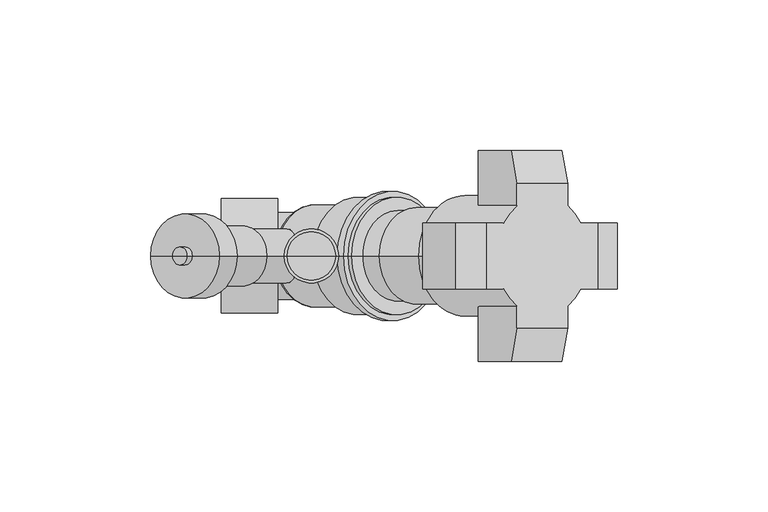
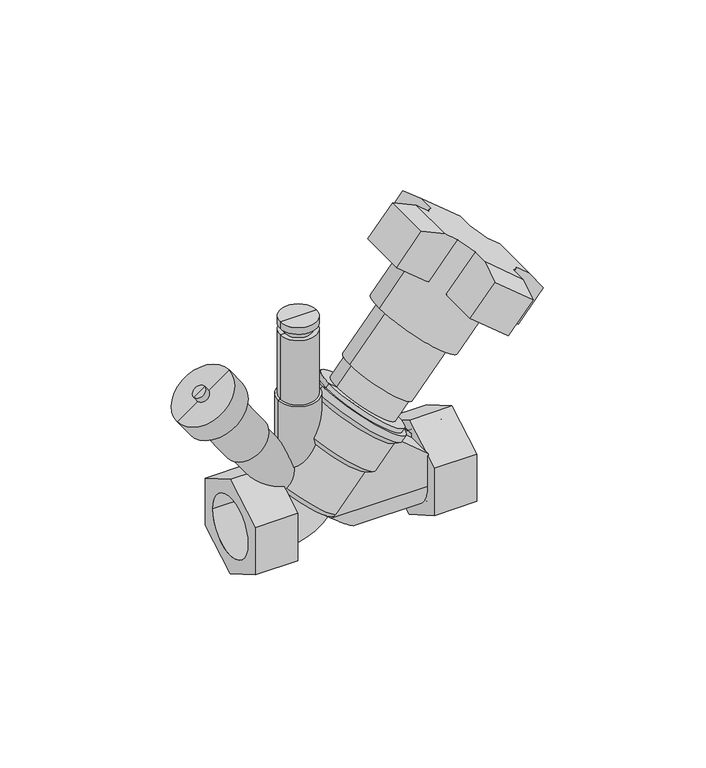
"""IFC4 building model written with IfcOpenShell, lengths in millimetres: valve geometry, 400_56_KOMF_VTR DN20-50 : DN 20, meet & vul/aftap."""

from ifc_helpers import new_model, si_unit, point, frame, origin, origin_2d, place, context, project, spatial, polyline, circle_curve, ellipse_curve, trimmed, segment, composite_curve, outline, extrude, source, transform, mapped, element, save
from ifc_brep_helpers import plane_surface, cylinder_surface, revolved_surface, advanced_brep


def valve_7e726bc3(model_context):
    return source(origin(), model_context, "Body", "SolidModel", [
        advanced_brep(
        [(-29.95, -19.0, 10.9696551), (-29.95, -19.0, -10.9696551), (-29.95, 0.0, -21.9393102), (-29.95, 19.0, -10.9696551), (-29.95, 19.0, 10.9696551), (-29.95, 0.0, 21.9393102), (-48.75, -19.0, 10.9696551), (-48.75, 0.0, 21.9393102), (-48.75, 19.0, 10.9696551), (-48.75, 19.0, -10.9696551), (-48.75, 0.0, -21.9393102), (-48.75, -19.0, -10.9696551), (-48.75, -13.45, 0.0), (-48.75, 13.45, 0.0), (-31.95, -13.45, 0.0), (-31.95, 13.45, 0.0)],
        [
            (0, 1),
            (1, 2),
            (2, 3),
            (3, 4),
            (4, 5),
            (5, 0),
            (6, 7),
            (7, 8),
            (8, 9),
            (9, 10),
            (10, 11),
            (11, 6),
            (12, 13, circle_curve(frame((-48.75, 0.0, 0.0), z_axis=(1.0, 0.0, 0.0), x_axis=(0.0, 1.0, 0.0)), 13.45)),
            (13, 12, circle_curve(frame((-48.75, 0.0, 0.0), z_axis=(1.0, 0.0, 0.0), x_axis=(0.0, 1.0, 0.0)), 13.45)),
            (0, 6),
            (11, 1),
            (10, 2),
            (9, 3),
            (8, 4),
            (7, 5),
            (14, 15, circle_curve(frame((-31.95, 0.0, 0.0), z_axis=(-1.0, 0.0, 0.0), x_axis=(0.0, 1.0, 0.0)), 13.45)),
            (15, 14, circle_curve(frame((-31.95, 0.0, 0.0), z_axis=(-1.0, 0.0, 0.0), x_axis=(0.0, 1.0, 0.0)), 13.45)),
            (15, 13),
            (12, 14),
        ],
        [
            plane_surface(frame((-29.95, -19.0, 10.9696551), z_axis=(1.0, 0.0, 0.0), x_axis=(0.0, 0.0, -1.0))),
            plane_surface(frame((-48.75, -19.0, 10.9696551), z_axis=(-1.0, 0.0, 0.0), x_axis=(0.0, 0.0, 1.0))),
            plane_surface(frame((-29.95, -19.0, 10.9696551), z_axis=(0.0, -1.0, 0.0), x_axis=(-1.0, 0.0, 0.0))),
            plane_surface(frame((-29.95, -19.0, -10.9696551), z_axis=(0.0, -0.5000000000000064, -0.866025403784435), x_axis=(-1.0, 0.0, 0.0))),
            plane_surface(frame((-29.95, 0.0, -21.9393102), z_axis=(0.0, 0.5000000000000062, -0.866025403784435), x_axis=(-1.0, 0.0, 0.0))),
            plane_surface(frame((-29.95, 19.0, -10.9696551), z_axis=(0.0, 1.0, 0.0), x_axis=(-1.0, 0.0, 0.0))),
            plane_surface(frame((-29.95, 19.0, 10.9696551), z_axis=(0.0, 0.5000000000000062, 0.866025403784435), x_axis=(-1.0, 0.0, 0.0))),
            plane_surface(frame((-29.95, 0.0, 21.9393102), z_axis=(0.0, -0.5000000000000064, 0.866025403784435), x_axis=(-1.0, 0.0, 0.0))),
            plane_surface(frame((-31.95, 13.45, 0.0), z_axis=(-1.0, 0.0, 0.0), x_axis=(0.0, 0.0, 1.0))),
            revolved_surface(polyline([(-31.95, 13.45, 0.0), (-48.75, 13.45, 0.0)]), (-48.75, 0.0, 0.0), (1.0, 0.0, 0.0)),
        ],
        [
            (0, [[1, 2, 3, 4, 5, 6]]),
            (1, [[7, 8, 9, 10, 11, 12], [13, 14]]),
            (2, [[-1, 15, -12, 16]]),
            (3, [[-2, -16, -11, 17]]),
            (4, [[-3, -17, -10, 18]]),
            (5, [[-4, -18, -9, 19]]),
            (6, [[-5, -19, -8, 20]]),
            (7, [[-6, -20, -7, -15]]),
            (8, [[21, 22]]),
            (9, [[-22, 23, -13, 24]]),
            (9, [[-21, -24, -14, -23]]),
        ],
    ),
        advanced_brep(
        [(48.75, -19.0, 10.9696551), (48.75, -19.0, -10.9696551), (48.75, 0.0, -21.9393102), (48.75, 19.0, -10.9696551), (48.75, 19.0, 10.9696551), (48.75, 0.0, 21.9393102), (48.75, 13.45, 0.0), (48.75, -13.45, 0.0), (29.95, -19.0, 10.9696551), (29.95, 0.0, 21.9393102), (29.95, 19.0, 10.9696551), (29.95, 19.0, -10.9696551), (29.95, 0.0, -21.9393102), (29.95, -19.0, -10.9696551), (31.95, -13.45, 0.0), (31.95, 13.45, 0.0)],
        [
            (0, 1),
            (1, 2),
            (2, 3),
            (3, 4),
            (4, 5),
            (5, 0),
            (6, 7, circle_curve(frame((48.75, 0.0, 0.0), z_axis=(-1.0, 0.0, 0.0), x_axis=(0.0, 1.0, 0.0)), 13.45)),
            (7, 6, circle_curve(frame((48.75, 0.0, 0.0), z_axis=(-1.0, 0.0, 0.0), x_axis=(0.0, 1.0, 0.0)), 13.45)),
            (8, 9),
            (9, 10),
            (10, 11),
            (11, 12),
            (12, 13),
            (13, 8),
            (0, 8),
            (13, 1),
            (12, 2),
            (11, 3),
            (10, 4),
            (9, 5),
            (14, 15, circle_curve(frame((31.95, 0.0, 0.0), z_axis=(1.0, 0.0, 0.0), x_axis=(0.0, 1.0, 0.0)), 13.45)),
            (15, 14, circle_curve(frame((31.95, 0.0, 0.0), z_axis=(1.0, 0.0, 0.0), x_axis=(0.0, 1.0, 0.0)), 13.45)),
            (14, 7),
            (6, 15),
        ],
        [
            plane_surface(frame((48.75, -19.0, 10.9696551), z_axis=(1.0, 0.0, 0.0), x_axis=(0.0, 0.0, -1.0))),
            plane_surface(frame((29.95, -19.0, 10.9696551), z_axis=(-1.0, 0.0, 0.0), x_axis=(0.0, 0.0, 1.0))),
            plane_surface(frame((48.75, -19.0, 10.9696551), z_axis=(0.0, -1.0, 0.0), x_axis=(-1.0, 0.0, 0.0))),
            plane_surface(frame((48.75, -19.0, -10.9696551), z_axis=(0.0, -0.5000000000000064, -0.866025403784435), x_axis=(-1.0, 0.0, 0.0))),
            plane_surface(frame((48.75, 0.0, -21.9393102), z_axis=(0.0, 0.5000000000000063, -0.866025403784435), x_axis=(-1.0, 0.0, 0.0))),
            plane_surface(frame((48.75, 19.0, -10.9696551), z_axis=(0.0, 1.0, 0.0), x_axis=(-1.0, 0.0, 0.0))),
            plane_surface(frame((48.75, 19.0, 10.9696551), z_axis=(0.0, 0.5000000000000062, 0.866025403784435), x_axis=(-1.0, 0.0, 0.0))),
            plane_surface(frame((48.75, 0.0, 21.9393102), z_axis=(0.0, -0.5000000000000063, 0.866025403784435), x_axis=(-1.0, 0.0, 0.0))),
            plane_surface(frame((31.95, 13.45, 0.0), z_axis=(1.0, 0.0, 0.0), x_axis=(0.0, 0.0, -1.0))),
            revolved_surface(polyline([(48.75, 13.45, 0.0), (31.95, 13.45, 0.0)]), (31.95, 0.0, 0.0), (1.0, 0.0, 0.0)),
        ],
        [
            (0, [[1, 2, 3, 4, 5, 6], [7, 8]]),
            (1, [[9, 10, 11, 12, 13, 14]]),
            (2, [[-1, 15, -14, 16]]),
            (3, [[-2, -16, -13, 17]]),
            (4, [[-3, -17, -12, 18]]),
            (5, [[-4, -18, -11, 19]]),
            (6, [[-5, -19, -10, 20]]),
            (7, [[-6, -20, -9, -15]]),
            (8, [[21, 22]]),
            (9, [[-21, 23, -7, 24]]),
            (9, [[-22, -24, -8, -23]]),
        ],
    ),
        extrude(outline(polyline([(14.5, 31.95), (24.7749098, 23.14524), (37.3534463, 8.154724), (0.0, 22.45), (0.0, 31.95), (14.5, 31.95)])), frame((0.0, -2.0, 0.0), z_axis=(0.0, 1.0, 0.0), x_axis=(0.0, 0.0, 1.0)), (0.0, 0.0, 1.0), 4.0),
        extrude(outline(composite_curve([segment(trimmed(circle_curve(origin_2d(), 13.45), [point((0.0, -13.45))], [point((0.0, 13.45))], False, "CARTESIAN"), True, "CONTINUOUS"), segment(trimmed(circle_curve(origin_2d(), 13.45), [point((0.0, 13.45))], [point((0.0, -13.45))], False, "CARTESIAN"), True, "CONTINUOUS")], self_intersect=False)), frame((29.95, 0.0, 0.0), z_axis=(1.0, 0.0, 0.0), x_axis=(0.0, 1.0, 0.0)), (0.0, 0.0, 1.0), 2.0),
        advanced_brep(
        [(9.4402993, 0.0, 38.8855352), (24.3781659, 0.0, 26.3511768), (-5.4975674, 0.0, 51.4198935), (-30.3330222, 0.0, 14.8213938), (-7.3516889, 0.0, -4.4622345), (-18.8423556, 0.0, 5.1795797), (-17.7237837, 0.0, 32.9599468), (8.3217274, 0.0, 11.105168), (-4.5340248, 0.0, -4.2157208), (-30.5795359, 0.0, 17.6390579), (-18.3533196, 0.0, 36.0990047), (11.5224137, 0.0, 11.0302879), (-9.9970807, 0.0, 46.0575824), (19.8786526, 0.0, 20.9888657), (-10.2435943, 0.0, 48.8752465), (22.6963167, 0.0, 21.2353793), (-8.3152315, 0.0, 51.1733799), (24.6246796, 0.0, 23.5335127), (-6.7831426, 0.0, 49.8878047), (23.0925907, 0.0, 24.8190879)],
        [
            (0, 1),
            (1, 2, circle_curve(frame((9.4402993, 0.0, 38.8855352), z_axis=(0.6427876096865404, 0.0, 0.7660444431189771), x_axis=(0.7660444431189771, 0.0, -0.6427876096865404)), 19.5)),
            (2, 0),
            (2, 1, circle_curve(frame((9.4402993, 0.0, 38.8855352), z_axis=(0.6427876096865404, 0.0, 0.7660444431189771), x_axis=(0.7660444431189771, 0.0, -0.6427876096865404)), 19.5)),
            (3, 4, circle_curve(frame((-18.8423556, 0.0, 5.1795797), z_axis=(-0.6427876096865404, 0.0, -0.7660444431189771), x_axis=(0.7660444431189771, 0.0, -0.6427876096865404)), 15.0)),
            (4, 5),
            (5, 3),
            (4, 3, circle_curve(frame((-18.8423556, 0.0, 5.1795797), z_axis=(-0.6427876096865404, 0.0, -0.7660444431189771), x_axis=(0.7660444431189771, 0.0, -0.6427876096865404)), 15.0)),
            (6, 7, circle_curve(frame((-4.7010282, 0.0, 22.0325574), z_axis=(-0.6427876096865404, 0.0, -0.7660444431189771), x_axis=(0.7660444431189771, 0.0, -0.6427876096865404)), 17.0)),
            (7, 8),
            (8, 9, circle_curve(frame((-17.5567804, 0.0, 6.7116685), z_axis=(0.6427876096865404, 0.0, 0.7660444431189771), x_axis=(0.7660444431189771, 0.0, -0.6427876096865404)), 17.0)),
            (9, 6),
            (7, 6, circle_curve(frame((-4.7010282, 0.0, 22.0325574), z_axis=(-0.6427876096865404, 0.0, -0.7660444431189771), x_axis=(0.7660444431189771, 0.0, -0.6427876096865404)), 17.0)),
            (9, 8, circle_curve(frame((-17.5567804, 0.0, 6.7116685), z_axis=(0.6427876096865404, 0.0, 0.7660444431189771), x_axis=(0.7660444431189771, 0.0, -0.6427876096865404)), 17.0)),
            (10, 11, circle_curve(frame((-3.4154529, 0.0, 23.5646463), z_axis=(-0.6427876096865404, 0.0, -0.7660444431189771), x_axis=(0.7660444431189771, 0.0, -0.6427876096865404)), 19.5)),
            (11, 7),
            (6, 10),
            (11, 10, circle_curve(frame((-3.4154529, 0.0, 23.5646463), z_axis=(-0.6427876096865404, 0.0, -0.7660444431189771), x_axis=(0.7660444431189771, 0.0, -0.6427876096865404)), 19.5)),
            (12, 13, circle_curve(frame((4.940786, 0.0, 33.5232241), z_axis=(-0.6427876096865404, 0.0, -0.7660444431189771), x_axis=(0.7660444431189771, 0.0, -0.6427876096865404)), 19.5)),
            (13, 11),
            (10, 12),
            (13, 12, circle_curve(frame((4.940786, 0.0, 33.5232241), z_axis=(-0.6427876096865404, 0.0, -0.7660444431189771), x_axis=(0.7660444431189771, 0.0, -0.6427876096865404)), 19.5)),
            (14, 15, circle_curve(frame((6.2263612, 0.0, 35.0553129), z_axis=(-0.6427876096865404, 0.0, -0.7660444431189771), x_axis=(0.7660444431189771, 0.0, -0.6427876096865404)), 21.5)),
            (15, 13),
            (12, 14),
            (15, 14, circle_curve(frame((6.2263612, 0.0, 35.0553129), z_axis=(-0.6427876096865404, 0.0, -0.7660444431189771), x_axis=(0.7660444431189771, 0.0, -0.6427876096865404)), 21.5)),
            (16, 17, circle_curve(frame((8.154724, 0.0, 37.3534463), z_axis=(-0.6427876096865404, 0.0, -0.7660444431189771), x_axis=(0.7660444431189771, 0.0, -0.6427876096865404)), 21.5)),
            (17, 15),
            (14, 16),
            (17, 16, circle_curve(frame((8.154724, 0.0, 37.3534463), z_axis=(-0.6427876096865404, 0.0, -0.7660444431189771), x_axis=(0.7660444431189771, 0.0, -0.6427876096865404)), 21.5)),
            (18, 19, circle_curve(frame((8.154724, 0.0, 37.3534463), z_axis=(-0.6427876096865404, 0.0, -0.7660444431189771), x_axis=(0.7660444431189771, 0.0, -0.6427876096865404)), 19.5)),
            (19, 17),
            (16, 18),
            (19, 18, circle_curve(frame((8.154724, 0.0, 37.3534463), z_axis=(-0.6427876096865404, 0.0, -0.7660444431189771), x_axis=(0.7660444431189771, 0.0, -0.6427876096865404)), 19.5)),
            (1, 19),
            (18, 2),
            (8, 4, circle_curve(frame((-6.0661137, 0.0, -2.9301456), z_axis=(0.0, 1.0, 0.0), x_axis=(0.6427876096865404, 0.0, 0.7660444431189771)), 2.0)),
            (3, 9, circle_curve(frame((-29.047447, 0.0, 16.3534827), z_axis=(0.0, 1.0, 0.0), x_axis=(0.6427876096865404, 0.0, 0.7660444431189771)), 2.0)),
        ],
        [
            plane_surface(frame((9.4402993, 0.0, 38.8855352), z_axis=(0.6427876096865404, 0.0, 0.7660444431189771), x_axis=(0.7660444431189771, 0.0, -0.6427876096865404))),
            plane_surface(frame((-18.8423556, 0.0, 5.1795797), z_axis=(-0.6427876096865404, 0.0, -0.7660444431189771), x_axis=(0.7660444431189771, 0.0, -0.6427876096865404))),
            cylinder_surface(frame((-23.188539, 0.0, 0.0), z_axis=(0.6427876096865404, 0.0, 0.7660444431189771), x_axis=(0.7660444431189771, 0.0, -0.6427876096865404)), 17.0),
            revolved_surface(polyline([(8.3217274, 0.0, 11.105168), (11.5224137, 0.0, 11.0302879)]), (-23.188539, 0.0, 0.0), (0.6427876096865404, 0.0, 0.7660444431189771)),
            cylinder_surface(frame((-23.188539, 0.0, 0.0), z_axis=(0.6427876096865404, 0.0, 0.7660444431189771), x_axis=(0.7660444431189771, 0.0, -0.6427876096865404)), 19.5),
            revolved_surface(polyline([(19.8786526, 0.0, 20.9888657), (22.6963167, 0.0, 21.2353793)]), (-23.188539, 0.0, 0.0), (0.6427876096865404, 0.0, 0.7660444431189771)),
            cylinder_surface(frame((-23.188539, 0.0, 0.0), z_axis=(0.6427876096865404, 0.0, 0.7660444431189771), x_axis=(0.7660444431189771, 0.0, -0.6427876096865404)), 21.5),
            plane_surface(frame((8.154724, 0.0, 37.3534463), z_axis=(0.6427876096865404, 0.0, 0.7660444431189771), x_axis=(0.7660444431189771, 0.0, -0.6427876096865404))),
            revolved_surface(trimmed(ellipse_curve(frame((-6.0661137, 0.0, -2.9301456), z_axis=(0.0, -1.0, 0.0), x_axis=(0.6427876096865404, 0.0, 0.7660444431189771)), 2.0, 2.0), [point((-7.3516889, 0.0, -4.4622345))], [point((-4.5340248, 0.0, -4.2157208))], True, "CARTESIAN"), (-23.188539, 0.0, 0.0), (0.6427876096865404, 0.0, 0.7660444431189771)),
        ],
        [
            (0, [[1, 2, 3]]),
            (0, [[-3, 4, -1]]),
            (1, [[5, 6, 7]]),
            (1, [[8, -7, -6]]),
            (2, [[9, 10, 11, 12]]),
            (2, [[13, -12, 14, -10]]),
            (3, [[15, 16, -9, 17]]),
            (3, [[18, -17, -13, -16]]),
            (4, [[19, 20, -15, 21]]),
            (4, [[22, -21, -18, -20]]),
            (5, [[23, 24, -19, 25]]),
            (5, [[26, -25, -22, -24]]),
            (6, [[27, 28, -23, 29]]),
            (6, [[30, -29, -26, -28]]),
            (7, [[31, 32, -27, 33]]),
            (7, [[34, -33, -30, -32]]),
            (4, [[-2, 35, -31, 36]]),
            (4, [[-4, -36, -34, -35]]),
            (8, [[-11, 37, -5, 38]]),
            (8, [[-14, -38, -8, -37]]),
        ],
    ),
        advanced_brep(
        [(-27.8423556, 0.0, 51.5066858), (-9.8423556, 0.0, 51.5066858), (-9.8423556, 0.0, 5.1795797), (-27.8423556, 0.0, 5.1795797), (-26.8423556, 0.0, 51.5066858), (-10.8423556, 0.0, 51.5066858), (-26.8423556, 0.0, 81.5066858), (-10.8423556, 0.0, 81.5066858), (-24.8423556, 0.0, 81.5066858), (-12.8423556, 0.0, 81.5066858), (-18.8423556, 0.0, 5.1795797), (-24.8423556, 0.0, 84.5066858), (-12.8423556, 0.0, 84.5066858), (-26.8423556, 0.0, 84.5066858), (-10.8423556, 0.0, 84.5066858), (-26.8423556, 0.0, 87.5066858), (-10.8423556, 0.0, 87.5066858), (-18.8423556, 0.0, 87.5066858)],
        [
            (0, 1, circle_curve(frame((-18.8423556, 0.0, 51.5066858), z_axis=(0.0, 0.0, -1.0), x_axis=(1.0, 0.0, 0.0)), 9.0)),
            (1, 2),
            (2, 3, circle_curve(frame((-18.8423556, 0.0, 5.1795797), z_axis=(0.0, 0.0, 1.0), x_axis=(1.0, 0.0, 0.0)), 9.0)),
            (3, 0),
            (1, 0, circle_curve(frame((-18.8423556, 0.0, 51.5066858), z_axis=(0.0, 0.0, -1.0), x_axis=(1.0, 0.0, 0.0)), 9.0)),
            (3, 2, circle_curve(frame((-18.8423556, 0.0, 5.1795797), z_axis=(0.0, 0.0, 1.0), x_axis=(1.0, 0.0, 0.0)), 9.0)),
            (4, 5, circle_curve(frame((-18.8423556, 0.0, 51.5066858), z_axis=(0.0, 0.0, -1.0), x_axis=(1.0, 0.0, 0.0)), 8.0)),
            (5, 1),
            (0, 4),
            (5, 4, circle_curve(frame((-18.8423556, 0.0, 51.5066858), z_axis=(0.0, 0.0, -1.0), x_axis=(1.0, 0.0, 0.0)), 8.0)),
            (6, 7, circle_curve(frame((-18.8423556, 0.0, 81.5066858), z_axis=(0.0, 0.0, -1.0), x_axis=(1.0, 0.0, 0.0)), 8.0)),
            (7, 5),
            (4, 6),
            (7, 6, circle_curve(frame((-18.8423556, 0.0, 81.5066858), z_axis=(0.0, 0.0, -1.0), x_axis=(1.0, 0.0, 0.0)), 8.0)),
            (8, 9, circle_curve(frame((-18.8423556, 0.0, 81.5066858), z_axis=(0.0, 0.0, -1.0), x_axis=(1.0, 0.0, 0.0)), 6.0)),
            (9, 7),
            (6, 8),
            (9, 8, circle_curve(frame((-18.8423556, 0.0, 81.5066858), z_axis=(0.0, 0.0, -1.0), x_axis=(1.0, 0.0, 0.0)), 6.0)),
            (2, 10),
            (10, 3),
            (11, 12, circle_curve(frame((-18.8423556, 0.0, 84.5066858), z_axis=(0.0, 0.0, -1.0), x_axis=(1.0, 0.0, 0.0)), 6.0)),
            (12, 9),
            (8, 11),
            (12, 11, circle_curve(frame((-18.8423556, 0.0, 84.5066858), z_axis=(0.0, 0.0, -1.0), x_axis=(1.0, 0.0, 0.0)), 6.0)),
            (13, 14, circle_curve(frame((-18.8423556, 0.0, 84.5066858), z_axis=(0.0, 0.0, -1.0), x_axis=(1.0, 0.0, 0.0)), 8.0)),
            (14, 12),
            (11, 13),
            (14, 13, circle_curve(frame((-18.8423556, 0.0, 84.5066858), z_axis=(0.0, 0.0, -1.0), x_axis=(1.0, 0.0, 0.0)), 8.0)),
            (15, 16, circle_curve(frame((-18.8423556, 0.0, 87.5066858), z_axis=(0.0, 0.0, -1.0), x_axis=(1.0, 0.0, 0.0)), 8.0)),
            (16, 14),
            (13, 15),
            (16, 15, circle_curve(frame((-18.8423556, 0.0, 87.5066858), z_axis=(0.0, 0.0, -1.0), x_axis=(1.0, 0.0, 0.0)), 8.0)),
            (17, 16),
            (15, 17),
        ],
        [
            cylinder_surface(frame((-18.8423556, 0.0, 5.1795797), z_axis=(0.0, 0.0, 1.0), x_axis=(1.0, 0.0, 0.0)), 9.0),
            plane_surface(frame((-18.8423556, 0.0, 51.5066858), z_axis=(0.0, 0.0, 1.0), x_axis=(1.0, 0.0, 0.0))),
            cylinder_surface(frame((-18.8423556, 0.0, 5.1795797), z_axis=(0.0, 0.0, 1.0), x_axis=(1.0, 0.0, 0.0)), 8.0),
            plane_surface(frame((-18.8423556, 0.0, 81.5066858), z_axis=(0.0, 0.0, 1.0), x_axis=(1.0, 0.0, 0.0))),
            plane_surface(frame((-18.8423556, 0.0, 5.1795797), z_axis=(0.0, 0.0, -1.0), x_axis=(1.0, 0.0, 0.0))),
            cylinder_surface(frame((-18.8423556, 0.0, 5.1795797), z_axis=(0.0, 0.0, 1.0), x_axis=(1.0, 0.0, 0.0)), 6.0),
            plane_surface(frame((-18.8423556, 0.0, 84.5066858), z_axis=(0.0, 0.0, -1.0), x_axis=(1.0, 0.0, 0.0))),
            plane_surface(frame((-18.8423556, 0.0, 87.5066858), z_axis=(0.0, 0.0, 1.0), x_axis=(1.0, 0.0, 0.0))),
        ],
        [
            (0, [[1, 2, 3, 4]]),
            (0, [[5, -4, 6, -2]]),
            (1, [[7, 8, -1, 9]]),
            (1, [[10, -9, -5, -8]]),
            (2, [[11, 12, -7, 13]]),
            (2, [[14, -13, -10, -12]]),
            (3, [[15, 16, -11, 17]]),
            (3, [[18, -17, -14, -16]]),
            (4, [[-3, 19, 20]]),
            (4, [[-6, -20, -19]]),
            (5, [[21, 22, -15, 23]]),
            (5, [[24, -23, -18, -22]]),
            (6, [[25, 26, -21, 27]]),
            (6, [[28, -27, -24, -26]]),
            (2, [[29, 30, -25, 31]]),
            (2, [[32, -31, -28, -30]]),
            (7, [[33, -29, 34]]),
            (7, [[-34, -32, -33]]),
        ],
    ),
        advanced_brep(
        [(-62.8411907, 0.0, 48.8385136), (-44.8198457, 0.0, 61.4571952), (-45.6389977, 0.0, 60.8836187), (-62.0220386, 0.0, 49.41209), (-26.214724, 0.0, 0.0173917), (-11.4699872, 0.0, 10.3417676), (-18.8423556, 0.0, 5.1795797), (-49.1577814, 0.0, 32.7834735), (-34.4130446, 0.0, 43.1078494), (-49.9769335, 0.0, 32.2098971), (-33.5938926, 0.0, 43.6814258), (-63.9883436, 0.0, 50.4768176), (-45.9669986, 0.0, 63.0954992), (-66.4457997, 0.0, 48.7560883), (-43.5095424, 0.0, 64.8162286), (-72.181564, 0.0, 56.9476088), (-49.2453068, 0.0, 73.007749), (-63.1708916, 0.0, 63.2569496), (-58.2559793, 0.0, 66.6984082), (-64.8916209, 0.0, 65.7144057), (-59.9767086, 0.0, 69.1558643), (-62.4341647, 0.0, 67.435135)],
        [
            (0, 1, circle_curve(frame((-53.8305182, 0.0, 55.1478544), z_axis=(0.573576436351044, 0.0, -0.8191520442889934), x_axis=(0.8191520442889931, 0.0, 0.5735764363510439)), 11.0)),
            (1, 2),
            (2, 3, circle_curve(frame((-53.8305182, 0.0, 55.1478544), z_axis=(-0.573576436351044, 0.0, 0.8191520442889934), x_axis=(0.8191520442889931, 0.0, 0.5735764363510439)), 10.0)),
            (3, 0),
            (1, 0, circle_curve(frame((-53.8305182, 0.0, 55.1478544), z_axis=(0.573576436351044, 0.0, -0.8191520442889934), x_axis=(0.8191520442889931, 0.0, 0.5735764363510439)), 11.0)),
            (3, 2, circle_curve(frame((-53.8305182, 0.0, 55.1478544), z_axis=(-0.573576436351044, 0.0, 0.8191520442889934), x_axis=(0.8191520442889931, 0.0, 0.5735764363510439)), 10.0)),
            (4, 5, circle_curve(frame((-18.8423556, 0.0, 5.1795797), z_axis=(0.573576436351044, 0.0, -0.8191520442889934), x_axis=(0.8191520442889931, 0.0, 0.5735764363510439)), 9.0)),
            (5, 6),
            (6, 4),
            (5, 4, circle_curve(frame((-18.8423556, 0.0, 5.1795797), z_axis=(0.573576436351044, 0.0, -0.8191520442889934), x_axis=(0.8191520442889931, 0.0, 0.5735764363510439)), 9.0)),
            (7, 8, circle_curve(frame((-41.785413, 0.0, 37.9456614), z_axis=(0.573576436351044, 0.0, -0.8191520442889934), x_axis=(0.8191520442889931, 0.0, 0.5735764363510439)), 9.0)),
            (8, 5),
            (4, 7),
            (8, 7, circle_curve(frame((-41.785413, 0.0, 37.9456614), z_axis=(0.573576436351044, 0.0, -0.8191520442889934), x_axis=(0.8191520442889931, 0.0, 0.5735764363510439)), 9.0)),
            (9, 10, circle_curve(frame((-41.785413, 0.0, 37.9456614), z_axis=(0.573576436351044, 0.0, -0.8191520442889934), x_axis=(0.8191520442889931, 0.0, 0.5735764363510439)), 10.0)),
            (10, 8),
            (7, 9),
            (10, 9, circle_curve(frame((-41.785413, 0.0, 37.9456614), z_axis=(0.573576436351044, 0.0, -0.8191520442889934), x_axis=(0.8191520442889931, 0.0, 0.5735764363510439)), 10.0)),
            (2, 10),
            (9, 3),
            (11, 12, circle_curve(frame((-54.9776711, 0.0, 56.7861584), z_axis=(0.573576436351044, 0.0, -0.8191520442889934), x_axis=(0.8191520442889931, 0.0, 0.5735764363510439)), 11.0)),
            (12, 1),
            (0, 11),
            (12, 11, circle_curve(frame((-54.9776711, 0.0, 56.7861584), z_axis=(0.573576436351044, 0.0, -0.8191520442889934), x_axis=(0.8191520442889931, 0.0, 0.5735764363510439)), 11.0)),
            (13, 14, circle_curve(frame((-54.9776711, 0.0, 56.7861584), z_axis=(0.573576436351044, 0.0, -0.8191520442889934), x_axis=(0.8191520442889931, 0.0, 0.5735764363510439)), 14.0)),
            (14, 12),
            (11, 13),
            (14, 13, circle_curve(frame((-54.9776711, 0.0, 56.7861584), z_axis=(0.573576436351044, 0.0, -0.8191520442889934), x_axis=(0.8191520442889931, 0.0, 0.5735764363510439)), 14.0)),
            (15, 16, circle_curve(frame((-60.7134354, 0.0, 64.9776789), z_axis=(0.573576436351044, 0.0, -0.8191520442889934), x_axis=(0.8191520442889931, 0.0, 0.5735764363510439)), 14.0)),
            (16, 14),
            (13, 15),
            (16, 15, circle_curve(frame((-60.7134354, 0.0, 64.9776789), z_axis=(0.573576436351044, 0.0, -0.8191520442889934), x_axis=(0.8191520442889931, 0.0, 0.5735764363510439)), 14.0)),
            (17, 18, circle_curve(frame((-60.7134354, 0.0, 64.9776789), z_axis=(0.573576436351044, 0.0, -0.8191520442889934), x_axis=(0.8191520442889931, 0.0, 0.5735764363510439)), 3.0)),
            (18, 16),
            (15, 17),
            (18, 17, circle_curve(frame((-60.7134354, 0.0, 64.9776789), z_axis=(0.573576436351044, 0.0, -0.8191520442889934), x_axis=(0.8191520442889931, 0.0, 0.5735764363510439)), 3.0)),
            (19, 20, circle_curve(frame((-62.4341647, 0.0, 67.435135), z_axis=(0.573576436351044, 0.0, -0.8191520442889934), x_axis=(0.8191520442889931, 0.0, 0.5735764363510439)), 3.0)),
            (20, 18),
            (17, 19),
            (20, 19, circle_curve(frame((-62.4341647, 0.0, 67.435135), z_axis=(0.573576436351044, 0.0, -0.8191520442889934), x_axis=(0.8191520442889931, 0.0, 0.5735764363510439)), 3.0)),
            (21, 20),
            (19, 21),
        ],
        [
            plane_surface(frame((-53.8305182, 0.0, 55.1478544), z_axis=(0.573576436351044, 0.0, -0.8191520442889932), x_axis=(0.8191520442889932, 0.0, 0.573576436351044))),
            plane_surface(frame((-18.8423556, 0.0, 5.1795797), z_axis=(0.573576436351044, 0.0, -0.8191520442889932), x_axis=(0.8191520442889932, 0.0, 0.573576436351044))),
            cylinder_surface(frame((-18.8423556, 0.0, 5.1795797), z_axis=(-0.5735764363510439, 0.0, 0.8191520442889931), x_axis=(0.8191520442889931, 0.0, 0.5735764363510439)), 9.0),
            plane_surface(frame((-41.785413, 0.0, 37.9456614), z_axis=(0.573576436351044, 0.0, -0.8191520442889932), x_axis=(0.8191520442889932, 0.0, 0.573576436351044))),
            cylinder_surface(frame((-18.8423556, 0.0, 5.1795797), z_axis=(-0.5735764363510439, 0.0, 0.8191520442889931), x_axis=(0.8191520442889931, 0.0, 0.5735764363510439)), 10.0),
            cylinder_surface(frame((-18.8423556, 0.0, 5.1795797), z_axis=(-0.5735764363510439, 0.0, 0.8191520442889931), x_axis=(0.8191520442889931, 0.0, 0.5735764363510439)), 11.0),
            plane_surface(frame((-54.9776711, 0.0, 56.7861584), z_axis=(0.573576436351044, 0.0, -0.8191520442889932), x_axis=(0.8191520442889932, 0.0, 0.573576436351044))),
            cylinder_surface(frame((-18.8423556, 0.0, 5.1795797), z_axis=(-0.5735764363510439, 0.0, 0.8191520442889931), x_axis=(0.8191520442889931, 0.0, 0.5735764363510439)), 14.0),
            plane_surface(frame((-60.7134354, 0.0, 64.9776789), z_axis=(-0.573576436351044, 0.0, 0.8191520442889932), x_axis=(0.8191520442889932, 0.0, 0.573576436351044))),
            cylinder_surface(frame((-18.8423556, 0.0, 5.1795797), z_axis=(-0.5735764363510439, 0.0, 0.8191520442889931), x_axis=(0.8191520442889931, 0.0, 0.5735764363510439)), 3.0),
            plane_surface(frame((-62.4341647, 0.0, 67.435135), z_axis=(-0.573576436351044, 0.0, 0.8191520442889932), x_axis=(0.8191520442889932, 0.0, 0.573576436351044))),
        ],
        [
            (0, [[1, 2, 3, 4]]),
            (0, [[5, -4, 6, -2]]),
            (1, [[7, 8, 9]]),
            (1, [[10, -9, -8]]),
            (2, [[11, 12, -7, 13]]),
            (2, [[14, -13, -10, -12]]),
            (3, [[15, 16, -11, 17]]),
            (3, [[18, -17, -14, -16]]),
            (4, [[-3, 19, -15, 20]]),
            (4, [[-6, -20, -18, -19]]),
            (5, [[21, 22, -1, 23]]),
            (5, [[24, -23, -5, -22]]),
            (6, [[25, 26, -21, 27]]),
            (6, [[28, -27, -24, -26]]),
            (7, [[29, 30, -25, 31]]),
            (7, [[32, -31, -28, -30]]),
            (8, [[33, 34, -29, 35]]),
            (8, [[36, -35, -32, -34]]),
            (9, [[37, 38, -33, 39]]),
            (9, [[40, -39, -36, -38]]),
            (10, [[41, -37, 42]]),
            (10, [[-42, -40, -41]]),
        ],
    ),
        advanced_brep(
        [(4.5147563, 0.0, 56.351359), (27.4960896, 0.0, 37.0677307), (20.9309659, 0.0, 29.243721), (-2.0503674, 0.0, 48.5273493), (3.7487118, 0.0, 56.9941466), (28.262134, 0.0, 36.4249431), (19.8184021, 0.0, 76.1452577), (44.3318242, 0.0, 55.5760542), (16.7542243, 0.0, 78.7164081), (47.396002, 0.0, 53.0049037), (29.6099765, 0.0, 94.037297), (32.1354005, 11.0, 91.9182146), (44.9911527, 11.0, 107.2391035), (49.3601287, 16.7032931, 103.5730974), (36.5043765, 16.7032931, 88.2522085), (53.3573542, 16.7032931, 74.1108811), (66.2131064, 16.7032931, 89.43177), (70.5820824, 11.0, 85.7657638), (57.7263302, 11.0, 70.444875), (60.2517542, 0.0, 68.3257926), (57.7263302, -11.0, 70.444875), (70.5820824, -11.0, 85.7657638), (66.2131064, -16.7032931, 89.43177), (53.3573542, -16.7032931, 74.1108811), (36.5043765, -16.7032931, 88.2522085), (49.3601287, -16.7032931, 103.5730974), (44.9911527, -11.0, 107.2391035), (32.1354005, -11.0, 91.9182146), (76.1716842, -11.0, 81.075531), (76.1716842, 11.0, 81.075531), (66.2131064, 24.0, 89.43177), (49.3601287, 24.0, 103.5730974), (39.4015509, 11.0, 111.9293363), (39.4015509, -11.0, 111.9293363), (49.3601287, -24.0, 103.5730974), (66.2131064, -24.0, 89.43177), (9.4402993, 0.0, 38.8855352), (29.0466992, -11.0, 116.7018667), (18.1193098, -11.0, 103.6791111), (71.7424209, -11.0, 58.6839785), (82.6698102, -11.0, 71.706734), (82.6698102, 11.0, 71.706734), (71.7424209, 11.0, 58.6839785), (18.1193098, 11.0, 103.6791111), (29.0466992, 11.0, 116.7018667), (53.3573542, 35.0, 74.1108811), (64.2847436, 35.0, 87.1336366), (64.2847436, -35.0, 87.1336366), (53.3573542, -35.0, 74.1108811), (36.5043765, -35.0, 88.2522085), (47.4317658, -35.0, 101.274964), (47.4317658, 35.0, 101.274964), (36.5043765, 35.0, 88.2522085)],
        [
            (0, 1, circle_curve(frame((16.0054229, 0.0, 46.7095449), z_axis=(-0.6427876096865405, 0.0, -0.7660444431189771), x_axis=(0.7660444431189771, 0.0, -0.6427876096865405)), 15.0)),
            (1, 2),
            (2, 3, circle_curve(frame((9.4402993, 0.0, 38.8855352), z_axis=(0.6427876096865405, 0.0, 0.7660444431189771), x_axis=(0.7660444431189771, 0.0, -0.6427876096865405)), 15.0)),
            (3, 0),
            (1, 0, circle_curve(frame((16.0054229, 0.0, 46.7095449), z_axis=(-0.6427876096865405, 0.0, -0.7660444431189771), x_axis=(0.7660444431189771, 0.0, -0.6427876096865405)), 15.0)),
            (3, 2, circle_curve(frame((9.4402993, 0.0, 38.8855352), z_axis=(0.6427876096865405, 0.0, 0.7660444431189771), x_axis=(0.7660444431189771, 0.0, -0.6427876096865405)), 15.0)),
            (0, 4),
            (4, 5, circle_curve(frame((16.0054229, 0.0, 46.7095449), z_axis=(-0.6427876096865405, 0.0, -0.7660444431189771), x_axis=(0.7660444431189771, 0.0, -0.6427876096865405)), 16.0)),
            (5, 1),
            (5, 4, circle_curve(frame((16.0054229, 0.0, 46.7095449), z_axis=(-0.6427876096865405, 0.0, -0.7660444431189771), x_axis=(0.7660444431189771, 0.0, -0.6427876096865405)), 16.0)),
            (4, 6),
            (6, 7, circle_curve(frame((32.0751131, 0.0, 65.8606559), z_axis=(-0.6427876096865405, 0.0, -0.7660444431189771), x_axis=(0.7660444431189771, 0.0, -0.6427876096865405)), 16.0)),
            (7, 5),
            (7, 6, circle_curve(frame((32.0751131, 0.0, 65.8606559), z_axis=(-0.6427876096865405, 0.0, -0.7660444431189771), x_axis=(0.7660444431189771, 0.0, -0.6427876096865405)), 16.0)),
            (6, 8),
            (8, 9, circle_curve(frame((32.0751131, 0.0, 65.8606559), z_axis=(-0.6427876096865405, 0.0, -0.7660444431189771), x_axis=(0.7660444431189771, 0.0, -0.6427876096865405)), 20.0)),
            (9, 7),
            (9, 8, circle_curve(frame((32.0751131, 0.0, 65.8606559), z_axis=(-0.6427876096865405, 0.0, -0.7660444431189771), x_axis=(0.7660444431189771, 0.0, -0.6427876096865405)), 20.0)),
            (8, 10),
            (10, 11, circle_curve(frame((44.9308653, 0.0, 81.1815448), z_axis=(-0.6427876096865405, 0.0, -0.7660444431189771), x_axis=(0.7660444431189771, 0.0, -0.6427876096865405)), 20.0)),
            (11, 12),
            (12, 13, circle_curve(frame((57.7866175, 0.0, 96.5024337), z_axis=(-0.6427876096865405, 0.0, -0.7660444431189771), x_axis=(0.7660444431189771, 0.0, -0.6427876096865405)), 20.0)),
            (13, 14),
            (14, 15, circle_curve(frame((44.9308653, 0.0, 81.1815448), z_axis=(-0.6427876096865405, 0.0, -0.7660444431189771), x_axis=(0.7660444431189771, 0.0, -0.6427876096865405)), 20.0)),
            (15, 16),
            (16, 17, circle_curve(frame((57.7866175, 0.0, 96.5024337), z_axis=(-0.6427876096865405, 0.0, -0.7660444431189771), x_axis=(0.7660444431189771, 0.0, -0.6427876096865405)), 20.0)),
            (17, 18),
            (18, 19, circle_curve(frame((44.9308653, 0.0, 81.1815448), z_axis=(-0.6427876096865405, 0.0, -0.7660444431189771), x_axis=(0.7660444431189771, 0.0, -0.6427876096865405)), 20.0)),
            (19, 9),
            (19, 20, circle_curve(frame((44.9308653, 0.0, 81.1815448), z_axis=(-0.6427876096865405, 0.0, -0.7660444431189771), x_axis=(0.7660444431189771, 0.0, -0.6427876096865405)), 20.0)),
            (20, 21),
            (21, 22, circle_curve(frame((57.7866175, 0.0, 96.5024337), z_axis=(-0.6427876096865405, 0.0, -0.7660444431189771), x_axis=(0.7660444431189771, 0.0, -0.6427876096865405)), 20.0)),
            (22, 23),
            (23, 24, circle_curve(frame((44.9308653, 0.0, 81.1815448), z_axis=(-0.6427876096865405, 0.0, -0.7660444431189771), x_axis=(0.7660444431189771, 0.0, -0.6427876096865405)), 20.0)),
            (24, 25),
            (25, 26, circle_curve(frame((57.7866175, 0.0, 96.5024337), z_axis=(-0.6427876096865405, 0.0, -0.7660444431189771), x_axis=(0.7660444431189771, 0.0, -0.6427876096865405)), 20.0)),
            (26, 27),
            (27, 10, circle_curve(frame((44.9308653, 0.0, 81.1815448), z_axis=(-0.6427876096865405, 0.0, -0.7660444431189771), x_axis=(0.7660444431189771, 0.0, -0.6427876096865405)), 20.0)),
            (28, 29),
            (29, 17),
            (16, 30),
            (30, 31),
            (31, 13),
            (12, 32),
            (32, 33),
            (33, 26),
            (25, 34),
            (34, 35),
            (35, 22),
            (21, 28),
            (2, 36),
            (36, 3),
            (33, 37),
            (37, 38),
            (38, 27),
            (39, 40),
            (40, 28),
            (20, 39),
            (29, 41),
            (41, 42),
            (42, 18),
            (43, 44),
            (44, 32),
            (11, 43),
            (44, 37),
            (43, 38),
            (42, 39),
            (41, 40),
            (45, 46),
            (46, 30),
            (15, 45),
            (35, 47),
            (47, 48),
            (48, 23),
            (49, 50),
            (50, 34),
            (24, 49),
            (31, 51),
            (51, 52),
            (52, 14),
            (45, 52),
            (51, 46),
            (50, 47),
            (49, 48),
        ],
        [
            cylinder_surface(frame((-23.188539, 0.0, 0.0), z_axis=(0.6427876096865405, 0.0, 0.7660444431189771), x_axis=(0.7660444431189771, 0.0, -0.6427876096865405)), 15.0),
            plane_surface(frame((16.0054229, 0.0, 46.7095449), z_axis=(-0.6427876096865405, 0.0, -0.7660444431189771), x_axis=(0.7660444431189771, 0.0, -0.6427876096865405))),
            cylinder_surface(frame((-23.188539, 0.0, 0.0), z_axis=(0.6427876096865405, 0.0, 0.7660444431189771), x_axis=(0.7660444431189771, 0.0, -0.6427876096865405)), 16.0),
            plane_surface(frame((32.0751131, 0.0, 65.8606559), z_axis=(-0.6427876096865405, 0.0, -0.7660444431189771), x_axis=(0.7660444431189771, 0.0, -0.6427876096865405))),
            cylinder_surface(frame((-23.188539, 0.0, 0.0), z_axis=(0.6427876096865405, 0.0, 0.7660444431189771), x_axis=(0.7660444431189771, 0.0, -0.6427876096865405)), 20.0),
            plane_surface(frame((57.7866175, 0.0, 96.5024337), z_axis=(0.6427876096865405, 0.0, 0.7660444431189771), x_axis=(0.7660444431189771, 0.0, -0.6427876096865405))),
            plane_surface(frame((9.4402993, 0.0, 38.8855352), z_axis=(-0.6427876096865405, 0.0, -0.7660444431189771), x_axis=(0.7660444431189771, 0.0, -0.6427876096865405))),
            plane_surface(frame((39.4015509, -11.0, 111.9293363), z_axis=(0.0, -1.0, 0.0), x_axis=(-0.7660444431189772, 0.0, 0.6427876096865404))),
            plane_surface(frame((39.4015509, 11.0, 111.9293363), z_axis=(0.0, 1.0, 0.0), x_axis=(0.7660444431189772, 0.0, -0.6427876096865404))),
            plane_surface(frame((39.4015509, -11.0, 111.9293363), z_axis=(0.4185786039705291, 0.0, 0.9081805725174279), x_axis=(0.0, 1.0, 0.0))),
            plane_surface(frame((29.0466992, -11.0, 116.7018667), z_axis=(-0.7660444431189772, 0.0, 0.6427876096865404), x_axis=(0.0, 1.0, 0.0))),
            plane_surface(frame((18.1193098, -11.0, 103.6791111), z_axis=(-0.6427876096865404, 0.0, -0.7660444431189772), x_axis=(0.0, 1.0, 0.0))),
            plane_surface(frame((71.7424209, -11.0, 58.6839785), z_axis=(0.7660444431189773, 0.0, -0.6427876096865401), x_axis=(0.0, 1.0, 0.0))),
            plane_surface(frame((82.6698102, -11.0, 71.706734), z_axis=(0.8216978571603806, 0.0, 0.5699233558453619), x_axis=(0.0, 1.0, 0.0))),
            plane_surface(frame((64.2847436, 35.0, 87.1336366), z_axis=(0.7660444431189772, 0.0, -0.6427876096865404), x_axis=(0.6427876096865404, 0.0, 0.7660444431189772))),
            plane_surface(frame((47.4317658, 35.0, 101.274964), z_axis=(-0.7660444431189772, 0.0, 0.6427876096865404), x_axis=(-0.6427876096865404, 0.0, -0.7660444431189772))),
            plane_surface(frame((53.3573542, 35.0, 74.1108811), z_axis=(0.0, 1.0000000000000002, 0.0), x_axis=(-0.7660444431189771, 0.0, 0.6427876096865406))),
            plane_surface(frame((64.2847436, 35.0, 87.1336366), z_axis=(0.6201382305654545, 0.26311740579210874, 0.7390519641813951), x_axis=(-0.7660444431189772, 0.0, 0.6427876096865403))),
            plane_surface(frame((66.2131064, -24.0, 89.43177), z_axis=(0.6201382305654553, -0.2631174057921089, 0.7390519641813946), x_axis=(-0.7660444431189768, 0.0, 0.642787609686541))),
            plane_surface(frame((64.2847436, -35.0, 87.1336366), z_axis=(0.0, -1.0, 0.0), x_axis=(-0.7660444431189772, 0.0, 0.6427876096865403))),
            plane_surface(frame((53.3573542, -35.0, 74.1108811), z_axis=(-0.6427876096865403, 0.0, -0.7660444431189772), x_axis=(-0.7660444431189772, 0.0, 0.6427876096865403))),
        ],
        [
            (0, [[1, 2, 3, 4]]),
            (0, [[-2, 5, -4, 6]]),
            (1, [[-1, 7, 8, 9]]),
            (1, [[-5, -9, 10, -7]]),
            (2, [[-8, 11, 12, 13]]),
            (2, [[-10, -13, 14, -11]]),
            (3, [[-12, 15, 16, 17]]),
            (3, [[-14, -17, 18, -15]]),
            (4, [[-16, 19, 20, 21, 22, 23, 24, 25, 26, 27, 28, 29]]),
            (4, [[-18, -29, 30, 31, 32, 33, 34, 35, 36, 37, 38, -19]]),
            (5, [[39, 40, -26, 41, 42, 43, -22, 44, 45, 46, -36, 47, 48, 49, -32, 50]]),
            (6, [[-3, 51, 52]]),
            (6, [[-6, -52, -51]]),
            (7, [[53, 54, 55, -37, -46]]),
            (7, [[56, 57, -50, -31, 58]]),
            (8, [[59, 60, 61, -27, -40]]),
            (8, [[62, 63, -44, -21, 64]]),
            (9, [[-53, -45, -63, 65]]),
            (10, [[-54, -65, -62, 66]]),
            (11, [[-66, -64, -20, -38, -55]]),
            (11, [[67, -58, -30, -28, -61]]),
            (12, [[-56, -67, -60, 68]]),
            (13, [[-57, -68, -59, -39]]),
            (14, [[69, 70, -41, -25, 71]]),
            (14, [[72, 73, 74, -33, -49]]),
            (15, [[75, 76, -47, -35, 77]]),
            (15, [[78, 79, 80, -23, -43]]),
            (16, [[-69, 81, -79, 82]]),
            (17, [[-70, -82, -78, -42]]),
            (18, [[-72, -48, -76, 83]]),
            (19, [[-73, -83, -75, 84]]),
            (20, [[-81, -71, -24, -80]]),
            (20, [[-84, -77, -34, -74]]),
        ],
    ),
        extrude(outline(composite_curve([segment(trimmed(circle_curve(origin_2d(), 13.45), [point((0.0, -13.45))], [point((0.0, 13.45))], False, "CARTESIAN"), True, "CONTINUOUS"), segment(trimmed(circle_curve(origin_2d(), 13.45), [point((0.0, 13.45))], [point((0.0, -13.45))], False, "CARTESIAN"), True, "CONTINUOUS")], self_intersect=False)), frame((-31.95, 0.0, 0.0), z_axis=(1.0, 0.0, 0.0), x_axis=(0.0, 1.0, 0.0)), (0.0, 0.0, 1.0), 2.0),
        advanced_brep(
        [(-29.95, 0.0, -14.5), (-29.95, 0.0, 14.5), (-7.7347111, 0.0, -4.1408407)],
        [
            (0, 1, circle_curve(frame((-29.95, 0.0, 0.0), z_axis=(-1.0, 0.0, 0.0), x_axis=(0.0, 0.0, 1.0)), 14.5)),
            (1, 0, circle_curve(frame((-29.95, 0.0, 0.0), z_axis=(-1.0, 0.0, 0.0), x_axis=(0.0, 0.0, 1.0)), 14.5)),
            (2, 1, circle_curve(frame((-18.8423556, 0.0, 5.1795797), z_axis=(0.6427876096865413, 0.0, 0.7660444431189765), x_axis=(-0.7660444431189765, 0.0, 0.6427876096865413)), 14.5)),
            (1, 2, circle_curve(frame((-18.8423556, 0.0, 5.1795797), z_axis=(0.6427876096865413, 0.0, 0.7660444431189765), x_axis=(-0.7660444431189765, 0.0, 0.6427876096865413)), 14.5)),
            (2, 0, circle_curve(frame((-29.95, 0.0, 14.5), z_axis=(0.0, 1.0, 0.0), x_axis=(0.0, 0.0, -1.0)), 29.0)),
        ],
        [
            plane_surface(frame((-29.95, 1422.6039728, 14.5), z_axis=(-1.0, 0.0, 0.0), x_axis=(0.0, 0.0, -1.0))),
            plane_surface(frame((-29.95, 1422.6039728, 14.5), z_axis=(0.6427876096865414, 0.0, 0.7660444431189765), x_axis=(0.7660444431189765, 0.0, -0.6427876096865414))),
            revolved_surface(trimmed(ellipse_curve(frame((-29.95, 0.0, 0.0), z_axis=(1.0, 0.0, 0.0), x_axis=(0.0, 0.0, 1.0)), 14.5, 14.5), [point((-29.95, 0.0, -14.5))], [point((-29.95, 0.0, 14.5))], True, "CARTESIAN"), (-29.95, 1422.6039728, 14.5), (0.0, 1.0, 0.0)),
            revolved_surface(trimmed(ellipse_curve(frame((-29.95, 0.0, 0.0), z_axis=(1.0, 0.0, 0.0), x_axis=(0.0, 0.0, 1.0)), 14.5, 14.5), [point((-29.95, 0.0, 14.5))], [point((-29.95, 0.0, -14.5))], True, "CARTESIAN"), (-29.95, 1422.6039728, 14.5), (0.0, 1.0, 0.0)),
        ],
        [
            (0, [[1, 2]]),
            (1, [[3, 4]]),
            (2, [[5, -2, -3]]),
            (3, [[-1, -5, -4]]),
        ],
    ),
        advanced_brep(
        [(31.95, -14.5, 0.0), (31.95, 14.5, 0.0), (29.95, -14.5, 0.0), (-12.6695729, -14.5, 0.0), (-12.6695729, 14.5, 0.0), (29.95, 14.5, 0.0), (-18.8423556, 13.5433362, 5.1795797), (-18.8423556, -13.5433362, 5.1795797), (-18.8423556, -14.5, 5.1795797), (-18.8423556, 14.5, 5.1795797), (29.95, -14.5, 15.1488164), (6.2263612, -14.5, 35.0553129), (29.95, 14.5, 15.1488164), (6.2263612, 14.5, 35.0553129)],
        [
            (0, 1, circle_curve(frame((31.95, 0.0, 0.0), z_axis=(1.0, 0.0, 0.0), x_axis=(0.0, 1.0, 0.0)), 14.5)),
            (1, 0, circle_curve(frame((31.95, 0.0, 0.0), z_axis=(1.0, 0.0, 0.0), x_axis=(0.0, 1.0, 0.0)), 14.5)),
            (0, 2),
            (2, 3),
            (3, 4, ellipse_curve(frame((-12.6695729, 0.0, 0.0), z_axis=(0.6427876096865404, 0.0, 0.7660444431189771), x_axis=(0.7660444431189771, 0.0, -0.6427876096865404)), 22.5579955, 14.5)),
            (4, 5),
            (5, 1),
            (5, 2, circle_curve(frame((29.95, 0.0, 0.0), z_axis=(1.0, 0.0, 0.0), x_axis=(0.0, 1.0, 0.0)), 14.5)),
            (6, 7, ellipse_curve(frame((-12.6695729, 0.0, 0.0), z_axis=(0.6427876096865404, 0.0, 0.7660444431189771), x_axis=(0.7660444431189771, 0.0, -0.6427876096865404)), 22.5579955, 14.5)),
            (7, 6, ellipse_curve(frame((-23.188539, 0.0, 0.0), z_axis=(-0.7660444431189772, 0.0, 0.6427876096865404), x_axis=(0.6427876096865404, 0.0, 0.7660444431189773)), 18.9284057, 14.5)),
            (3, 8),
            (8, 7),
            (6, 9),
            (9, 4),
            (10, 11),
            (11, 8),
            (2, 10),
            (12, 5),
            (9, 13),
            (13, 12),
            (10, 12),
            (13, 11),
        ],
        [
            plane_surface(frame((31.95, 14.5, 0.0), z_axis=(1.0, 0.0, 0.0), x_axis=(0.0, 0.0, 1.0))),
            cylinder_surface(frame((-31.95, 0.0, 0.0), z_axis=(1.0, 0.0, 0.0), x_axis=(0.0, 1.0, 0.0)), 14.5),
            plane_surface(frame((-18.8423556, 0.0, 5.1795797), z_axis=(-0.6427876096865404, 0.0, -0.7660444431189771), x_axis=(0.7660444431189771, 0.0, -0.6427876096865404))),
            plane_surface(frame((6.2263612, -14.5, 35.0553129), z_axis=(0.0, -1.0, 0.0), x_axis=(-0.7660444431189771, 0.0, 0.6427876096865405))),
            plane_surface(frame((6.2263612, 14.5, 35.0553129), z_axis=(0.0, 1.0, 0.0), x_axis=(0.7660444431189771, 0.0, -0.6427876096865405))),
            plane_surface(frame((29.95, -14.5, 15.1488164), z_axis=(0.6427876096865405, 0.0, 0.7660444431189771), x_axis=(0.0, 1.0, 0.0))),
            plane_surface(frame((6.2263612, -14.5, 35.0553129), z_axis=(-0.7660444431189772, 0.0, 0.6427876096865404), x_axis=(0.0, 1.0, 0.0))),
            plane_surface(frame((29.95, -14.5, 0.0), z_axis=(1.0, 0.0, 0.0), x_axis=(0.0, 1.0, 0.0))),
        ],
        [
            (0, [[1, 2]]),
            (1, [[-1, 3, 4, 5, 6, 7]]),
            (1, [[-2, -7, 8, -3]]),
            (1, [[9, 10]]),
            (2, [[11, 12, -9, 13, 14, -5]]),
            (3, [[15, 16, -11, -4, 17]]),
            (4, [[18, -6, -14, 19, 20]]),
            (5, [[-15, 21, -20, 22]]),
            (6, [[-16, -22, -19, -13, -10, -12]]),
            (7, [[-17, -8, -18, -21]]),
        ],
    ),
    ])


if __name__ == "__main__":
    model = new_model("IFC4")
    model_context = context("Model", 3, world=origin())
    ifc_project = project(units=[si_unit("LENGTHUNIT", "METRE", prefix="MILLI")], contexts=[model_context])
    site = spatial("IfcSite", under=ifc_project)
    building = spatial("IfcBuilding", under=site)
    placement = place(None, origin())
    valve_shape = valve_7e726bc3(model_context)
    element("IfcValve", 1, ObjectType="400_56_KOMF_VTR DN20-50 : DN 20, meet & vul/aftap", at=placement, inside=building, context=model_context, shape_type="MappedRepresentation", body=[
        mapped(valve_shape, transform((0.0, 0.0, 0.0), x_axis=(1.0, 0.0, 0.0), y_axis=(0.0, 1.0, 0.0), z_axis=(0.0, 0.0, 1.0))),
    ])
    save(model, "model.ifc")
